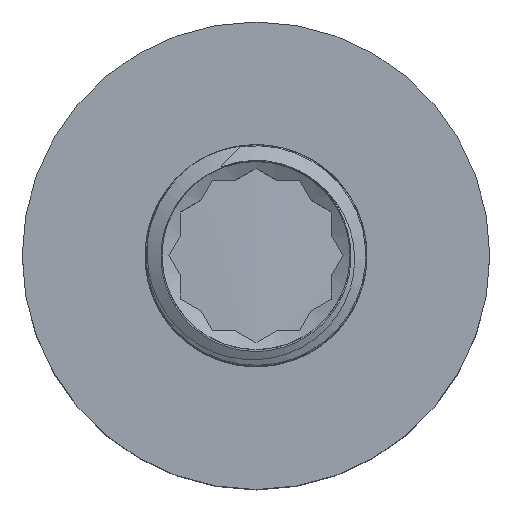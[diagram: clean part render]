
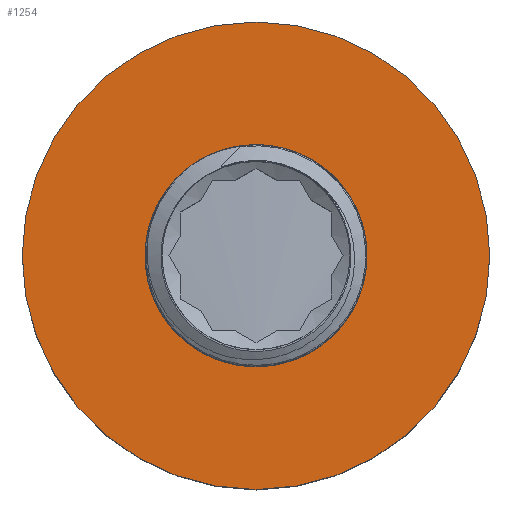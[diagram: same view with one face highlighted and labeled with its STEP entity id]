
A CAD part, top view. The second image highlights one B-rep face of the part: STEP entity #1254.
In plain terms, the highlighted planar face has unit normal (0, 0, 1).
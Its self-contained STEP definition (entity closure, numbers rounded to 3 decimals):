
#308=FACE_BOUND('',#390,.T.);
#316=FACE_OUTER_BOUND('',#389,.T.);
#389=EDGE_LOOP('',(#826,#827));
#390=EDGE_LOOP('',(#828));
#470=CIRCLE('',#1351,18.6);
#471=CIRCLE('',#1352,18.6);
#472=CIRCLE('',#1353,8.827);
#495=VERTEX_POINT('',#1685);
#496=VERTEX_POINT('',#1686);
#497=VERTEX_POINT('',#1689);
#628=EDGE_CURVE('',#495,#496,#470,.T.);
#629=EDGE_CURVE('',#496,#495,#471,.T.);
#630=EDGE_CURVE('',#497,#497,#472,.T.);
#826=ORIENTED_EDGE('',*,*,#628,.T.);
#827=ORIENTED_EDGE('',*,*,#629,.T.);
#828=ORIENTED_EDGE('',*,*,#630,.F.);
#1222=PLANE('',#1350);
#1254=ADVANCED_FACE('',(#316,#308),#1222,.T.);
#1350=AXIS2_PLACEMENT_3D('',#1684,#1438,#1439);
#1351=AXIS2_PLACEMENT_3D('',#1687,#1440,#1441);
#1352=AXIS2_PLACEMENT_3D('',#1688,#1442,#1443);
#1353=AXIS2_PLACEMENT_3D('',#1690,#1444,#1445);
#1438=DIRECTION('center_axis',(0.,0.,1.));
#1439=DIRECTION('ref_axis',(1.,0.,0.));
#1440=DIRECTION('center_axis',(0.,0.,1.));
#1441=DIRECTION('ref_axis',(1.,0.,0.));
#1442=DIRECTION('center_axis',(0.,0.,1.));
#1443=DIRECTION('ref_axis',(1.,0.,0.));
#1444=DIRECTION('center_axis',(0.,0.,1.));
#1445=DIRECTION('ref_axis',(1.,0.,0.));
#1684=CARTESIAN_POINT('Origin',(0.,-8.761,19.784));
#1685=CARTESIAN_POINT('',(0.,-18.534,19.784));
#1686=CARTESIAN_POINT('',(0.,18.666,19.784));
#1687=CARTESIAN_POINT('Origin',(0.,0.066,19.784));
#1688=CARTESIAN_POINT('Origin',(0.,0.066,19.784));
#1689=CARTESIAN_POINT('',(0.,-8.761,19.784));
#1690=CARTESIAN_POINT('Origin',(0.,0.066,19.784));
